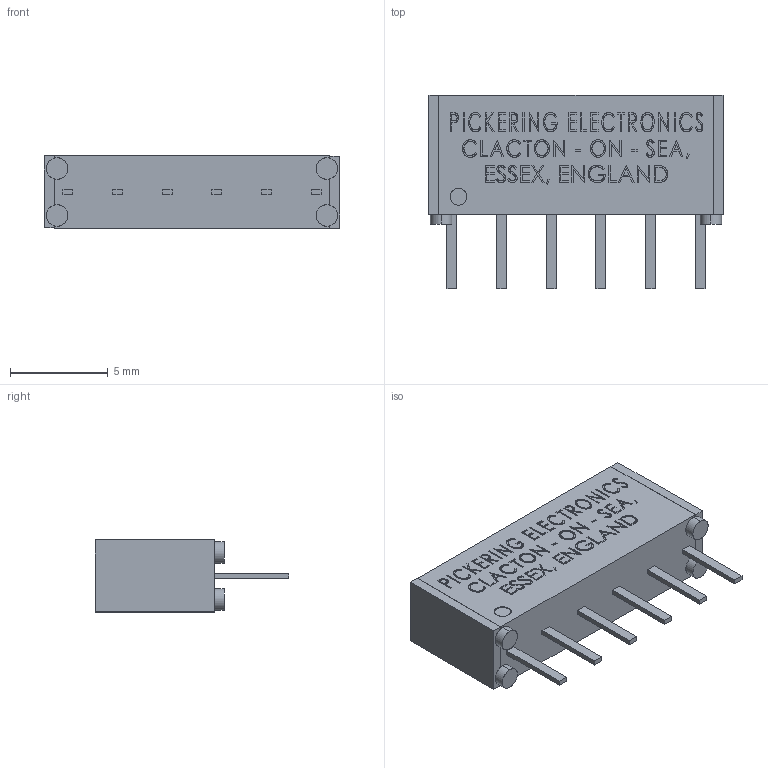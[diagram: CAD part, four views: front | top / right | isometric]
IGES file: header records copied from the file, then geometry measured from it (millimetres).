
Start section: SolidWorks IGES file using analytic representation for surfaces
Global section: file name: T:\Relays in Solidworks\Batch 1\109RFxx-1-A-x-xx.IGS; native system: SolidWorks 2009; preprocessor: SolidWorks 2009; author: alex.leming; date: 100629.115607; units: millimetre
Bounding box: 15.1 x 9.9 x 3.7 mm (x, y, z)
Surface area: 492.4 mm2 (no closed solid volume)
Topology: 0 solids, 0 shells, 1070 faces, 8974 edges, 8974 vertices
Faces by surface type: bspline 1060, revolution 10
